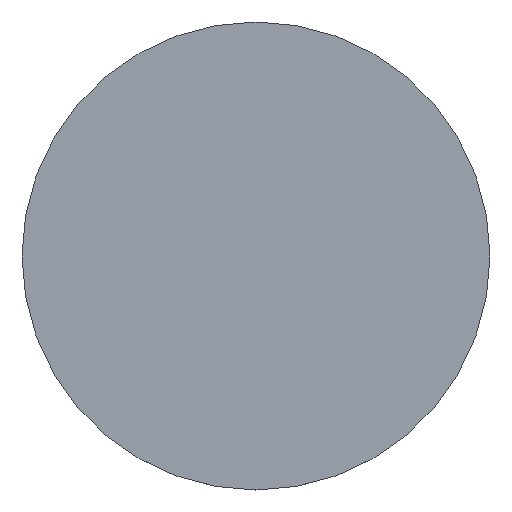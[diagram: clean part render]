
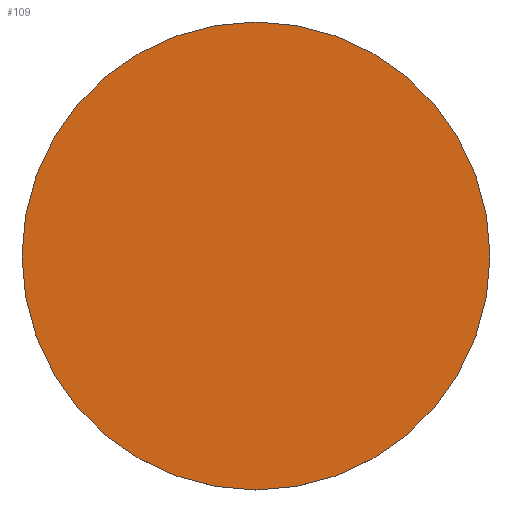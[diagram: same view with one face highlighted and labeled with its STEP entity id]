
A CAD part, top view. The second image highlights one B-rep face of the part: STEP entity #109.
In plain terms, the highlighted planar face has unit normal (0, 0, 1).
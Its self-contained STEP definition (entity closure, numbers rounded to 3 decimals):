
#109=ADVANCED_FACE('',(#203),#1741,.T.);
#203=FACE_OUTER_BOUND('',#297,.T.);
#297=EDGE_LOOP('',(#836,#837));
#836=ORIENTED_EDGE('',*,*,#1106,.F.);
#837=ORIENTED_EDGE('',*,*,#1102,.F.);
#1102=EDGE_CURVE('',#1734,#1735,#1374,.T.);
#1106=EDGE_CURVE('',#1735,#1734,#1376,.T.);
#1374=TRIMMED_CURVE($,#1554,(#3633),(#3634),.T.,.CARTESIAN.);
#1376=TRIMMED_CURVE($,#1556,(#3643),(#3644),.T.,.CARTESIAN.);
#1554=CIRCLE('',#2190,600.);
#1556=CIRCLE('',#2192,600.);
#1734=VERTEX_POINT('',#3628);
#1735=VERTEX_POINT('',#3629);
#1741=PLANE('',#2189);
#2189=AXIS2_PLACEMENT_3D('',#3627,#2642,$);
#2190=AXIS2_PLACEMENT_3D($,#3632,#2643,#2644);
#2192=AXIS2_PLACEMENT_3D($,#3642,#2647,#2648);
#2642=DIRECTION('',(0.,0.,1.));
#2643=DIRECTION('',(0.,0.,-1.));
#2644=DIRECTION('',(-1.,0.,0.));
#2647=DIRECTION('',(0.,0.,-1.));
#2648=DIRECTION('',(1.,0.,0.));
#3627=CARTESIAN_POINT('',(600.01,-600.01,768.591));
#3628=CARTESIAN_POINT('',(-600.,0.,768.591));
#3629=CARTESIAN_POINT('',(600.,0.,768.591));
#3632=CARTESIAN_POINT('',(0.,0.,768.591));
#3633=CARTESIAN_POINT('',(-600.,0.,768.591));
#3634=CARTESIAN_POINT('',(600.,0.,768.591));
#3642=CARTESIAN_POINT('',(0.,0.,768.591));
#3643=CARTESIAN_POINT('',(600.,0.,768.591));
#3644=CARTESIAN_POINT('',(-600.,0.,768.591));
